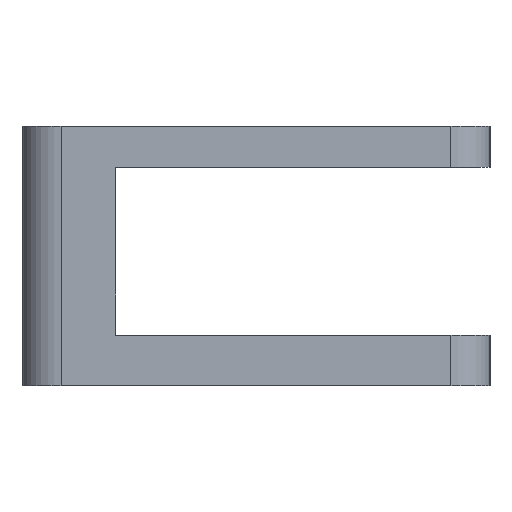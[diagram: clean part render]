
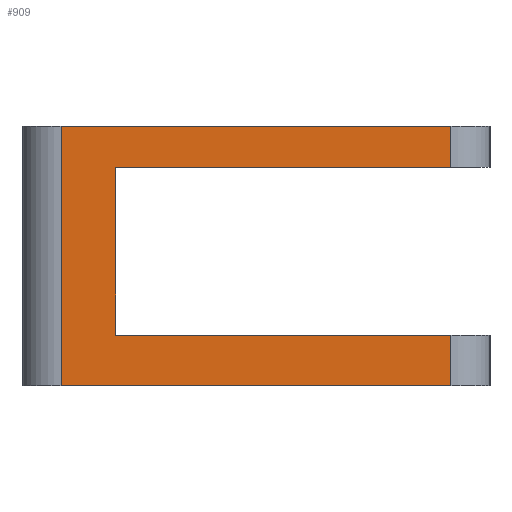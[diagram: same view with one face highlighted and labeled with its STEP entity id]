
A CAD part, left-side view. The second image highlights one B-rep face of the part: STEP entity #909.
In plain terms, the highlighted planar face has unit normal (-1, 0, 0).
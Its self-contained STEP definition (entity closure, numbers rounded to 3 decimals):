
#24=LINE('',#1463,#64);
#28=LINE('',#1479,#68);
#33=LINE('',#1493,#73);
#36=LINE('',#1499,#76);
#52=LINE('',#1545,#92);
#53=LINE('',#1548,#93);
#54=LINE('',#1549,#94);
#55=LINE('',#1550,#95);
#64=VECTOR('',#1215,5.3);
#68=VECTOR('',#1231,50.);
#73=VECTOR('',#1242,43.);
#76=VECTOR('',#1247,21.5);
#92=VECTOR('',#1295,6.5);
#93=VECTOR('',#1298,50.);
#94=VECTOR('',#1299,43.);
#95=VECTOR('',#1300,33.3);
#116=PLANE('',#1029);
#237=FACE_OUTER_BOUND('',#349,.T.);
#349=EDGE_LOOP('',(#785,#786,#787,#788,#789,#790,#791,#792));
#484=VERTEX_POINT('',#1459);
#485=VERTEX_POINT('',#1461);
#491=VERTEX_POINT('',#1477);
#496=VERTEX_POINT('',#1489);
#499=VERTEX_POINT('',#1496);
#512=VERTEX_POINT('',#1541);
#513=VERTEX_POINT('',#1543);
#514=VERTEX_POINT('',#1547);
#572=EDGE_CURVE('',#484,#485,#24,.T.);
#580=EDGE_CURVE('',#491,#485,#28,.T.);
#587=EDGE_CURVE('',#496,#484,#33,.T.);
#590=EDGE_CURVE('',#499,#496,#36,.T.);
#613=EDGE_CURVE('',#512,#513,#52,.T.);
#614=EDGE_CURVE('',#514,#512,#53,.T.);
#615=EDGE_CURVE('',#499,#513,#54,.T.);
#616=EDGE_CURVE('',#514,#491,#55,.T.);
#785=ORIENTED_EDGE('',*,*,#614,.T.);
#786=ORIENTED_EDGE('',*,*,#613,.T.);
#787=ORIENTED_EDGE('',*,*,#615,.F.);
#788=ORIENTED_EDGE('',*,*,#590,.T.);
#789=ORIENTED_EDGE('',*,*,#587,.T.);
#790=ORIENTED_EDGE('',*,*,#572,.T.);
#791=ORIENTED_EDGE('',*,*,#580,.F.);
#792=ORIENTED_EDGE('',*,*,#616,.F.);
#909=ADVANCED_FACE('',(#237),#116,.T.);
#1029=AXIS2_PLACEMENT_3D('',#1546,#1296,#1297);
#1215=DIRECTION('',(0.,0.,1.));
#1231=DIRECTION('',(0.,-1.,0.));
#1242=DIRECTION('',(0.,-1.,0.));
#1247=DIRECTION('',(0.,0.,1.));
#1295=DIRECTION('',(0.,0.,1.));
#1296=DIRECTION('center_axis',(-1.,0.,0.));
#1297=DIRECTION('ref_axis',(0.,-1.,0.));
#1298=DIRECTION('',(0.,-1.,0.));
#1299=DIRECTION('',(0.,-1.,0.));
#1300=DIRECTION('',(0.,0.,1.));
#1459=CARTESIAN_POINT('',(-100.721,-25.,28.));
#1461=CARTESIAN_POINT('',(-100.721,-25.,33.3));
#1463=CARTESIAN_POINT('',(-100.721,-25.,28.));
#1477=CARTESIAN_POINT('',(-100.721,25.,33.3));
#1479=CARTESIAN_POINT('',(-100.721,25.,33.3));
#1489=CARTESIAN_POINT('',(-100.721,18.,28.));
#1493=CARTESIAN_POINT('',(-100.721,25.,28.));
#1496=CARTESIAN_POINT('',(-100.721,18.,6.5));
#1499=CARTESIAN_POINT('',(-100.721,18.,6.5));
#1541=CARTESIAN_POINT('',(-100.721,-25.,0.));
#1543=CARTESIAN_POINT('',(-100.721,-25.,6.5));
#1545=CARTESIAN_POINT('',(-100.721,-25.,0.));
#1546=CARTESIAN_POINT('Origin',(-100.721,25.,0.));
#1547=CARTESIAN_POINT('',(-100.721,25.,0.));
#1548=CARTESIAN_POINT('',(-100.721,25.,0.));
#1549=CARTESIAN_POINT('',(-100.721,25.,6.5));
#1550=CARTESIAN_POINT('',(-100.721,25.,0.));
